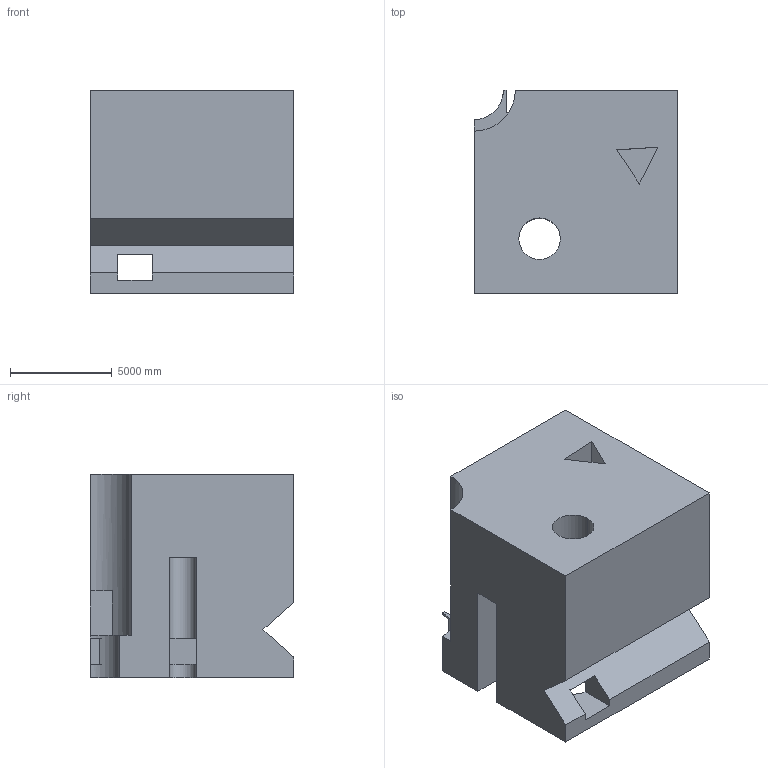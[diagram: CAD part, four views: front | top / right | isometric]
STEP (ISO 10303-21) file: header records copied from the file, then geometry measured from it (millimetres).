
FILE_DESCRIPTION (( 'STEP AP203' ), '1' );
FILE_NAME ('823.STEP', '2022-07-29T13:28:52', ( 'user' ), ( '' ), 'SwSTEP 2.0', 'SolidWorks 2021', '' );
FILE_SCHEMA (( 'CONFIG_CONTROL_DESIGN' ));
Length unit declared in the file: centimetre
Products named in the file (1): 823
Bounding box: 10000 x 10000 x 10000 mm (x, y, z)
Volume: 857073481287.3 mm3; surface area: 726448078.3 mm2
Topology: 1 solids, 1 shells, 38 faces, 123 edges, 82 vertices
Faces by surface type: plane 32, cylinder 6
Entity records: 1439 total; most frequent: ORIENTED_EDGE 246, CARTESIAN_POINT 244, DIRECTION 220, EDGE_CURVE 123, LINE 104, VECTOR 104, VERTEX_POINT 82, AXIS2_PLACEMENT_3D 58
